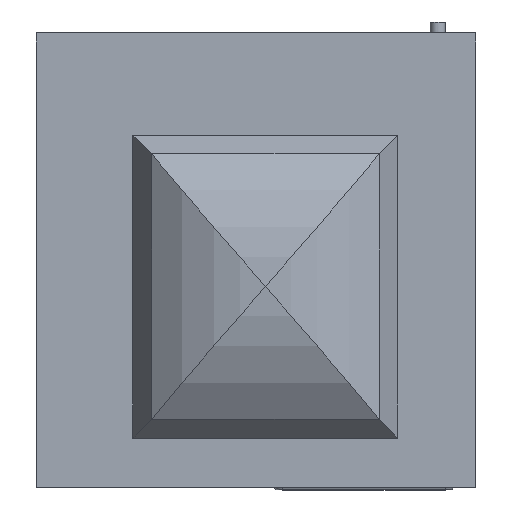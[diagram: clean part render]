
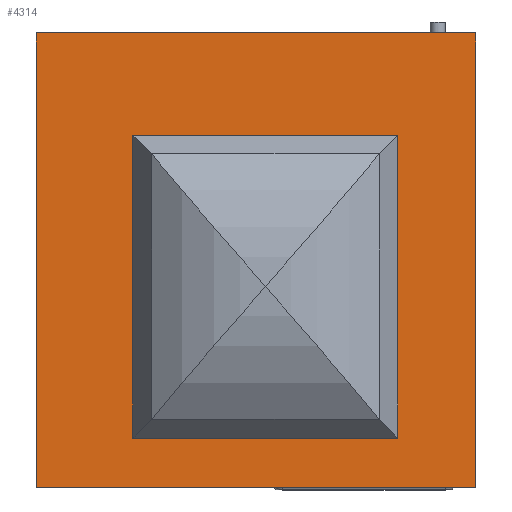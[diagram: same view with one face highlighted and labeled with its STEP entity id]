
A CAD part, top view. The second image highlights one B-rep face of the part: STEP entity #4314.
In plain terms, the highlighted planar face has unit normal (0, 0, 1).
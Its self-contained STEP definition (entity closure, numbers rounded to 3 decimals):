
#113=PLANE('',#6255);
#307=LINE('',#7553,#739);
#310=LINE('',#7559,#742);
#312=LINE('',#7563,#744);
#313=LINE('',#7565,#745);
#314=LINE('',#7567,#746);
#315=LINE('',#7570,#747);
#316=LINE('',#7572,#748);
#317=LINE('',#7574,#749);
#739=VECTOR('',#6529,1000.);
#742=VECTOR('',#6534,1000.);
#744=VECTOR('',#6538,1000.);
#745=VECTOR('',#6541,1000.);
#746=VECTOR('',#6544,1000.);
#747=VECTOR('',#6545,1000.);
#748=VECTOR('',#6546,1000.);
#749=VECTOR('',#6547,1000.);
#1194=ORIENTED_EDGE('',*,*,#2475,.T.);
#1195=ORIENTED_EDGE('',*,*,#2474,.T.);
#1196=ORIENTED_EDGE('',*,*,#2472,.F.);
#1197=ORIENTED_EDGE('',*,*,#2469,.F.);
#1198=ORIENTED_EDGE('',*,*,#2476,.F.);
#1199=ORIENTED_EDGE('',*,*,#2477,.F.);
#1200=ORIENTED_EDGE('',*,*,#2478,.F.);
#1201=ORIENTED_EDGE('',*,*,#2479,.F.);
#2469=EDGE_CURVE('',#3112,#3113,#307,.T.);
#2472=EDGE_CURVE('',#3113,#3114,#310,.T.);
#2474=EDGE_CURVE('',#3115,#3114,#312,.T.);
#2475=EDGE_CURVE('',#3112,#3115,#313,.T.);
#2476=EDGE_CURVE('',#3116,#3117,#314,.T.);
#2477=EDGE_CURVE('',#3118,#3116,#315,.T.);
#2478=EDGE_CURVE('',#3119,#3118,#316,.T.);
#2479=EDGE_CURVE('',#3117,#3119,#317,.T.);
#3112=VERTEX_POINT('',#7552);
#3113=VERTEX_POINT('',#7554);
#3114=VERTEX_POINT('',#7558);
#3115=VERTEX_POINT('',#7562);
#3116=VERTEX_POINT('',#7568);
#3117=VERTEX_POINT('',#7569);
#3118=VERTEX_POINT('',#7571);
#3119=VERTEX_POINT('',#7573);
#3710=EDGE_LOOP('',(#1194,#1195,#1196,#1197));
#3711=EDGE_LOOP('',(#1198,#1199,#1200,#1201));
#4001=FACE_BOUND('',#3710,.T.);
#4002=FACE_BOUND('',#3711,.T.);
#4314=ADVANCED_FACE('',(#4001,#4002),#113,.T.);
#6255=AXIS2_PLACEMENT_3D('',#7566,#6542,#6543);
#6529=DIRECTION('',(0.,1.,0.));
#6534=DIRECTION('',(-1.,0.,0.));
#6538=DIRECTION('',(0.,1.,0.));
#6541=DIRECTION('',(-1.,0.,0.));
#6542=DIRECTION('',(0.,0.,1.));
#6543=DIRECTION('',(1.,0.,0.));
#6544=DIRECTION('',(-1.,0.,0.));
#6545=DIRECTION('',(0.,-1.,0.));
#6546=DIRECTION('',(1.,0.,0.));
#6547=DIRECTION('',(0.,1.,0.));
#7552=CARTESIAN_POINT('',(477.5,65.,360.));
#7553=CARTESIAN_POINT('',(477.5,31.989,360.));
#7554=CARTESIAN_POINT('',(477.5,465.,360.));
#7558=CARTESIAN_POINT('',(127.5,465.,360.));
#7559=CARTESIAN_POINT('',(540.,465.,360.));
#7562=CARTESIAN_POINT('',(127.5,65.,360.));
#7563=CARTESIAN_POINT('',(127.5,31.989,360.));
#7565=CARTESIAN_POINT('',(540.,65.,360.));
#7566=CARTESIAN_POINT('',(580.,600.,360.));
#7567=CARTESIAN_POINT('',(580.,-0.001,360.));
#7568=CARTESIAN_POINT('',(580.001,-0.001,360.));
#7569=CARTESIAN_POINT('',(-0.001,-0.001,360.));
#7570=CARTESIAN_POINT('',(580.001,600.001,360.));
#7571=CARTESIAN_POINT('',(580.001,600.001,360.));
#7572=CARTESIAN_POINT('',(0.,600.001,360.));
#7573=CARTESIAN_POINT('',(-0.001,600.001,360.));
#7574=CARTESIAN_POINT('',(-0.001,0.,360.));
